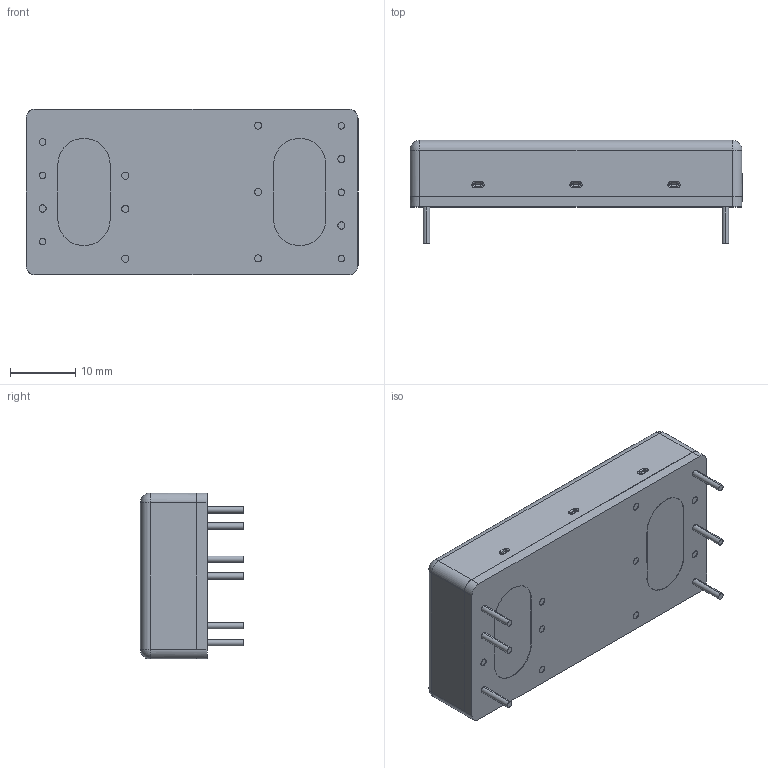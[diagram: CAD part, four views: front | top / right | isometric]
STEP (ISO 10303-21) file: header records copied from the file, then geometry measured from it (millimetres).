
FILE_DESCRIPTION (( 'STEP AP203' ), '1' );
FILE_NAME ('EC7BW-110-1121026.STEP', '2023-10-26T06:46:50', ( 'cincon' ), ( '' ), 'SwSTEP 2.0', 'SolidWorks 2020', '' );
FILE_SCHEMA (( 'CONFIG_CONTROL_DESIGN' ));
Length unit declared in the file: millimetre
Products named in the file (1): EC7BW-110-1121026
Bounding box: 50.8 x 15.8 x 25.4 mm (x, y, z)
Volume: 1916.7 mm3; surface area: 8303.3 mm2
Topology: 1 solids, 1 shells, 391 faces, 943 edges, 587 vertices
Faces by surface type: plane 165, cylinder 98, torus 66, cone 54, sphere 8
Entity records: 11446 total; most frequent: DIRECTION 2135, CARTESIAN_POINT 1938, ORIENTED_EDGE 1870, EDGE_CURVE 935, AXIS2_PLACEMENT_3D 816, VERTEX_POINT 587, VECTOR 503, LINE 503
